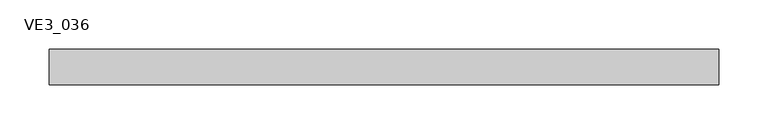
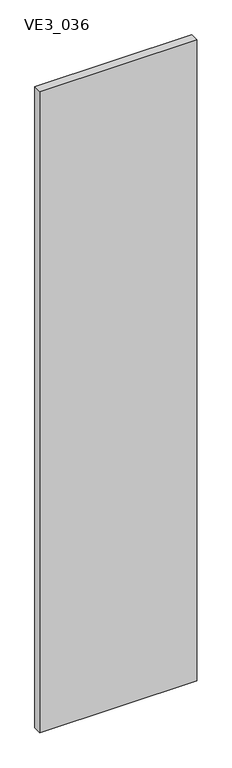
"""IFC4 building model written with IfcOpenShell, lengths in millimetres: plate geometry, TRP_CP_ARC_PF_RE_SE : VE3_036."""

from ifc_helpers import new_model, si_unit, frame, origin, place, context, project, spatial, polyline, outline, extrude, source, transform, mapped, element, save


def ve3_036_28023d53(model_context):
    return source(origin(), model_context, "Body", "SweptSolid", [
        extrude(outline(polyline([(339.6678107, 18.0), (339.6678107, -18.0), (-339.6678107, -18.0), (-339.6678107, 18.0), (339.6678107, 18.0)])), frame((0.0, 0.0, -3.1739529), z_axis=(0.0, 0.0, 1.0), x_axis=(1.0, 0.0, 0.0)), (0.0, 0.0, 1.0), 2933.1739529),
    ])


if __name__ == "__main__":
    model = new_model("IFC4")
    model_context = context("Model", 3, world=origin())
    ifc_project = project(units=[si_unit("LENGTHUNIT", "METRE", prefix="MILLI")], contexts=[model_context])
    site = spatial("IfcSite", under=ifc_project)
    building = spatial("IfcBuilding", under=site)
    placement = place(None, origin())
    ve3_036_shape = ve3_036_28023d53(model_context)
    element("IfcPlate", 1, ObjectType="TRP_CP_ARC_PF_RE_SE : VE3_036", at=placement, inside=building, context=model_context, shape_type="MappedRepresentation", body=[
        mapped(ve3_036_shape, transform((0.0, 0.0, 0.0), x_axis=(1.0, 0.0, 0.0), y_axis=(0.0, 1.0, 0.0), z_axis=(0.0, 0.0, 1.0))),
    ])
    save(model, "model.ifc")
